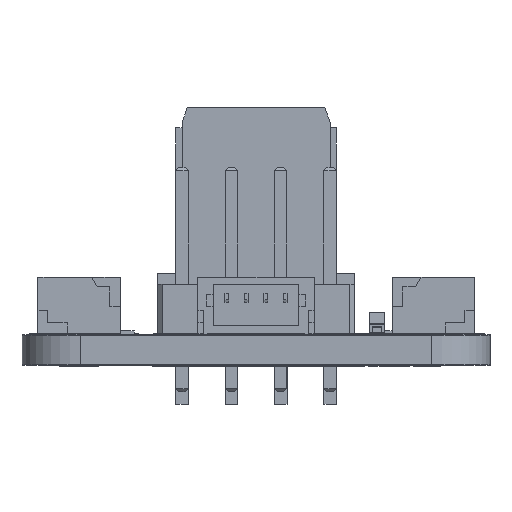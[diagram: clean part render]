
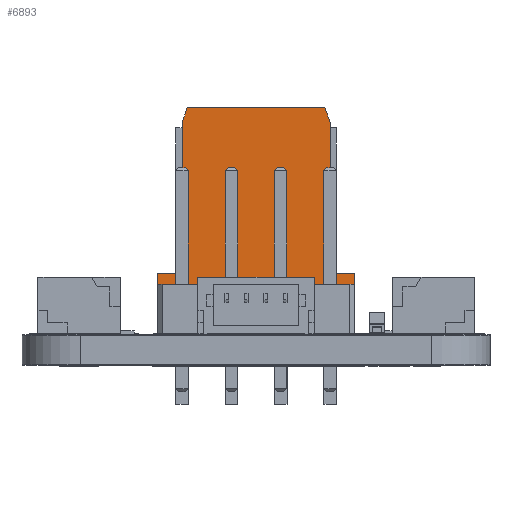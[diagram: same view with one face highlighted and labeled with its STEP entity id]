
A CAD part, left-side view. The second image highlights one B-rep face of the part: STEP entity #6893.
In plain terms, the highlighted planar face has unit normal (-1, 0, 0) as drawn and (0, 0, -1) by its records, which use the part's own axes.
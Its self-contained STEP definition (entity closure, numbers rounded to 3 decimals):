
#6455 = VERTEX_POINT('',#6456);
#6456 = CARTESIAN_POINT('',(-5.08,1.58,-2.88));
#6462 = EDGE_CURVE('',#6463,#6455,#6465,.T.);
#6463 = VERTEX_POINT('',#6464);
#6464 = CARTESIAN_POINT('',(-5.08,-1.58,-2.88));
#6465 = LINE('',#6466,#6467);
#6466 = CARTESIAN_POINT('',(-5.08,-1.58,-2.88));
#6467 = VECTOR('',#6468,1.);
#6468 = DIRECTION('',(0.,1.,0.));
#6644 = VERTEX_POINT('',#6645);
#6645 = CARTESIAN_POINT('',(2.97,-1.58,-2.88));
#6651 = EDGE_CURVE('',#6644,#6652,#6654,.T.);
#6652 = VERTEX_POINT('',#6653);
#6653 = CARTESIAN_POINT('',(2.97,-0.94,-2.88));
#6654 = LINE('',#6655,#6656);
#6655 = CARTESIAN_POINT('',(2.97,-1.58,-2.88));
#6656 = VECTOR('',#6657,1.);
#6657 = DIRECTION('',(0.,1.,0.));
#6675 = VERTEX_POINT('',#6676);
#6676 = CARTESIAN_POINT('',(-4.65,-1.58,-2.88));
#6684 = EDGE_CURVE('',#6463,#6675,#6685,.T.);
#6685 = LINE('',#6686,#6687);
#6686 = CARTESIAN_POINT('',(-5.08,-1.58,-2.88));
#6687 = VECTOR('',#6688,1.);
#6688 = DIRECTION('',(1.,0.,0.));
#6699 = VERTEX_POINT('',#6700);
#6700 = CARTESIAN_POINT('',(-2.11,-1.58,-2.88));
#6708 = VERTEX_POINT('',#6709);
#6709 = CARTESIAN_POINT('',(-2.97,-1.58,-2.88));
#6715 = EDGE_CURVE('',#6708,#6699,#6716,.T.);
#6716 = LINE('',#6717,#6718);
#6717 = CARTESIAN_POINT('',(-2.97,-1.58,-2.88));
#6718 = VECTOR('',#6719,1.);
#6719 = DIRECTION('',(1.,0.,0.));
#6730 = VERTEX_POINT('',#6731);
#6731 = CARTESIAN_POINT('',(0.43,-1.58,-2.88));
#6739 = VERTEX_POINT('',#6740);
#6740 = CARTESIAN_POINT('',(-0.43,-1.58,-2.88));
#6746 = EDGE_CURVE('',#6739,#6730,#6747,.T.);
#6747 = LINE('',#6748,#6749);
#6748 = CARTESIAN_POINT('',(-0.43,-1.58,-2.88));
#6749 = VECTOR('',#6750,1.);
#6750 = DIRECTION('',(1.,0.,0.));
#6763 = VERTEX_POINT('',#6764);
#6764 = CARTESIAN_POINT('',(2.11,-1.58,-2.88));
#6770 = EDGE_CURVE('',#6763,#6644,#6771,.T.);
#6771 = LINE('',#6772,#6773);
#6772 = CARTESIAN_POINT('',(2.11,-1.58,-2.88));
#6773 = VECTOR('',#6774,1.);
#6774 = DIRECTION('',(1.,0.,0.));
#6785 = VERTEX_POINT('',#6786);
#6786 = CARTESIAN_POINT('',(4.65,-1.58,-2.88));
#6792 = EDGE_CURVE('',#6785,#6793,#6795,.T.);
#6793 = VERTEX_POINT('',#6794);
#6794 = CARTESIAN_POINT('',(5.08,-1.58,-2.88));
#6795 = LINE('',#6796,#6797);
#6796 = CARTESIAN_POINT('',(4.65,-1.58,-2.88));
#6797 = VECTOR('',#6798,1.);
#6798 = DIRECTION('',(1.,0.,0.));
#6816 = EDGE_CURVE('',#6675,#6817,#6819,.T.);
#6817 = VERTEX_POINT('',#6818);
#6818 = CARTESIAN_POINT('',(-4.65,-0.94,-2.88));
#6819 = LINE('',#6820,#6821);
#6820 = CARTESIAN_POINT('',(-4.65,-1.58,-2.88));
#6821 = VECTOR('',#6822,1.);
#6822 = DIRECTION('',(0.,1.,0.));
#6839 = EDGE_CURVE('',#6840,#6817,#6842,.T.);
#6840 = VERTEX_POINT('',#6841);
#6841 = CARTESIAN_POINT('',(-2.97,-0.94,-2.88));
#6842 = LINE('',#6843,#6844);
#6843 = CARTESIAN_POINT('',(-2.97,-0.94,-2.88));
#6844 = VECTOR('',#6845,1.);
#6845 = DIRECTION('',(-1.,0.,0.));
#6893 = ADVANCED_FACE('',(#6894),#7031,.T.);
#6894 = FACE_BOUND('',#6895,.T.);
#6895 = EDGE_LOOP('',(#6896,#6897,#6898,#6906,#6914,#6920,#6921,#6929,
    #6937,#6943,#6944,#6950,#6951,#6952,#6953,#6954,#6962,#6970,#6978,
    #6986,#6994,#7002,#7010,#7016,#7017,#7025));
#6896 = ORIENTED_EDGE('',*,*,#6651,.F.);
#6897 = ORIENTED_EDGE('',*,*,#6770,.F.);
#6898 = ORIENTED_EDGE('',*,*,#6899,.T.);
#6899 = EDGE_CURVE('',#6763,#6900,#6902,.T.);
#6900 = VERTEX_POINT('',#6901);
#6901 = CARTESIAN_POINT('',(2.11,-0.94,-2.88));
#6902 = LINE('',#6903,#6904);
#6903 = CARTESIAN_POINT('',(2.11,-1.58,-2.88));
#6904 = VECTOR('',#6905,1.);
#6905 = DIRECTION('',(0.,1.,0.));
#6906 = ORIENTED_EDGE('',*,*,#6907,.T.);
#6907 = EDGE_CURVE('',#6900,#6908,#6910,.T.);
#6908 = VERTEX_POINT('',#6909);
#6909 = CARTESIAN_POINT('',(0.43,-0.94,-2.88));
#6910 = LINE('',#6911,#6912);
#6911 = CARTESIAN_POINT('',(2.11,-0.94,-2.88));
#6912 = VECTOR('',#6913,1.);
#6913 = DIRECTION('',(-1.,0.,0.));
#6914 = ORIENTED_EDGE('',*,*,#6915,.F.);
#6915 = EDGE_CURVE('',#6730,#6908,#6916,.T.);
#6916 = LINE('',#6917,#6918);
#6917 = CARTESIAN_POINT('',(0.43,-1.58,-2.88));
#6918 = VECTOR('',#6919,1.);
#6919 = DIRECTION('',(0.,1.,0.));
#6920 = ORIENTED_EDGE('',*,*,#6746,.F.);
#6921 = ORIENTED_EDGE('',*,*,#6922,.T.);
#6922 = EDGE_CURVE('',#6739,#6923,#6925,.T.);
#6923 = VERTEX_POINT('',#6924);
#6924 = CARTESIAN_POINT('',(-0.43,-0.94,-2.88));
#6925 = LINE('',#6926,#6927);
#6926 = CARTESIAN_POINT('',(-0.43,-1.58,-2.88));
#6927 = VECTOR('',#6928,1.);
#6928 = DIRECTION('',(0.,1.,0.));
#6929 = ORIENTED_EDGE('',*,*,#6930,.T.);
#6930 = EDGE_CURVE('',#6923,#6931,#6933,.T.);
#6931 = VERTEX_POINT('',#6932);
#6932 = CARTESIAN_POINT('',(-2.11,-0.94,-2.88));
#6933 = LINE('',#6934,#6935);
#6934 = CARTESIAN_POINT('',(-0.43,-0.94,-2.88));
#6935 = VECTOR('',#6936,1.);
#6936 = DIRECTION('',(-1.,0.,0.));
#6937 = ORIENTED_EDGE('',*,*,#6938,.F.);
#6938 = EDGE_CURVE('',#6699,#6931,#6939,.T.);
#6939 = LINE('',#6940,#6941);
#6940 = CARTESIAN_POINT('',(-2.11,-1.58,-2.88));
#6941 = VECTOR('',#6942,1.);
#6942 = DIRECTION('',(0.,1.,0.));
#6943 = ORIENTED_EDGE('',*,*,#6715,.F.);
#6944 = ORIENTED_EDGE('',*,*,#6945,.T.);
#6945 = EDGE_CURVE('',#6708,#6840,#6946,.T.);
#6946 = LINE('',#6947,#6948);
#6947 = CARTESIAN_POINT('',(-2.97,-1.58,-2.88));
#6948 = VECTOR('',#6949,1.);
#6949 = DIRECTION('',(0.,1.,0.));
#6950 = ORIENTED_EDGE('',*,*,#6839,.T.);
#6951 = ORIENTED_EDGE('',*,*,#6816,.F.);
#6952 = ORIENTED_EDGE('',*,*,#6684,.F.);
#6953 = ORIENTED_EDGE('',*,*,#6462,.T.);
#6954 = ORIENTED_EDGE('',*,*,#6955,.T.);
#6955 = EDGE_CURVE('',#6455,#6956,#6958,.T.);
#6956 = VERTEX_POINT('',#6957);
#6957 = CARTESIAN_POINT('',(-3.81,1.58,-2.88));
#6958 = LINE('',#6959,#6960);
#6959 = CARTESIAN_POINT('',(-5.08,1.58,-2.88));
#6960 = VECTOR('',#6961,1.);
#6961 = DIRECTION('',(1.,0.,0.));
#6962 = ORIENTED_EDGE('',*,*,#6963,.T.);
#6963 = EDGE_CURVE('',#6956,#6964,#6966,.T.);
#6964 = VERTEX_POINT('',#6965);
#6965 = CARTESIAN_POINT('',(-3.81,9.37,-2.88));
#6966 = LINE('',#6967,#6968);
#6967 = CARTESIAN_POINT('',(-3.81,1.58,-2.88));
#6968 = VECTOR('',#6969,1.);
#6969 = DIRECTION('',(0.,1.,0.));
#6970 = ORIENTED_EDGE('',*,*,#6971,.T.);
#6971 = EDGE_CURVE('',#6964,#6972,#6974,.T.);
#6972 = VERTEX_POINT('',#6973);
#6973 = CARTESIAN_POINT('',(-3.537,10.12,-2.88));
#6974 = LINE('',#6975,#6976);
#6975 = CARTESIAN_POINT('',(-3.81,9.37,-2.88));
#6976 = VECTOR('',#6977,1.);
#6977 = DIRECTION('',(0.342,0.94,0.));
#6978 = ORIENTED_EDGE('',*,*,#6979,.T.);
#6979 = EDGE_CURVE('',#6972,#6980,#6982,.T.);
#6980 = VERTEX_POINT('',#6981);
#6981 = CARTESIAN_POINT('',(3.537,10.12,-2.88));
#6982 = LINE('',#6983,#6984);
#6983 = CARTESIAN_POINT('',(-3.537,10.12,-2.88));
#6984 = VECTOR('',#6985,1.);
#6985 = DIRECTION('',(1.,0.,0.));
#6986 = ORIENTED_EDGE('',*,*,#6987,.T.);
#6987 = EDGE_CURVE('',#6980,#6988,#6990,.T.);
#6988 = VERTEX_POINT('',#6989);
#6989 = CARTESIAN_POINT('',(3.81,9.37,-2.88));
#6990 = LINE('',#6991,#6992);
#6991 = CARTESIAN_POINT('',(3.537,10.12,-2.88));
#6992 = VECTOR('',#6993,1.);
#6993 = DIRECTION('',(0.342,-0.94,0.));
#6994 = ORIENTED_EDGE('',*,*,#6995,.F.);
#6995 = EDGE_CURVE('',#6996,#6988,#6998,.T.);
#6996 = VERTEX_POINT('',#6997);
#6997 = CARTESIAN_POINT('',(3.81,1.58,-2.88));
#6998 = LINE('',#6999,#7000);
#6999 = CARTESIAN_POINT('',(3.81,1.58,-2.88));
#7000 = VECTOR('',#7001,1.);
#7001 = DIRECTION('',(0.,1.,0.));
#7002 = ORIENTED_EDGE('',*,*,#7003,.T.);
#7003 = EDGE_CURVE('',#6996,#7004,#7006,.T.);
#7004 = VERTEX_POINT('',#7005);
#7005 = CARTESIAN_POINT('',(5.08,1.58,-2.88));
#7006 = LINE('',#7007,#7008);
#7007 = CARTESIAN_POINT('',(3.81,1.58,-2.88));
#7008 = VECTOR('',#7009,1.);
#7009 = DIRECTION('',(1.,0.,0.));
#7010 = ORIENTED_EDGE('',*,*,#7011,.F.);
#7011 = EDGE_CURVE('',#6793,#7004,#7012,.T.);
#7012 = LINE('',#7013,#7014);
#7013 = CARTESIAN_POINT('',(5.08,-1.58,-2.88));
#7014 = VECTOR('',#7015,1.);
#7015 = DIRECTION('',(0.,1.,0.));
#7016 = ORIENTED_EDGE('',*,*,#6792,.F.);
#7017 = ORIENTED_EDGE('',*,*,#7018,.T.);
#7018 = EDGE_CURVE('',#6785,#7019,#7021,.T.);
#7019 = VERTEX_POINT('',#7020);
#7020 = CARTESIAN_POINT('',(4.65,-0.94,-2.88));
#7021 = LINE('',#7022,#7023);
#7022 = CARTESIAN_POINT('',(4.65,-1.58,-2.88));
#7023 = VECTOR('',#7024,1.);
#7024 = DIRECTION('',(0.,1.,0.));
#7025 = ORIENTED_EDGE('',*,*,#7026,.T.);
#7026 = EDGE_CURVE('',#7019,#6652,#7027,.T.);
#7027 = LINE('',#7028,#7029);
#7028 = CARTESIAN_POINT('',(4.65,-0.94,-2.88));
#7029 = VECTOR('',#7030,1.);
#7030 = DIRECTION('',(-1.,0.,0.));
#7031 = PLANE('',#7032);
#7032 = AXIS2_PLACEMENT_3D('',#7033,#7034,#7035);
#7033 = CARTESIAN_POINT('',(-5.08,-1.58,-2.88));
#7034 = DIRECTION('',(0.,0.,-1.));
#7035 = DIRECTION('',(0.,-1.,0.));
